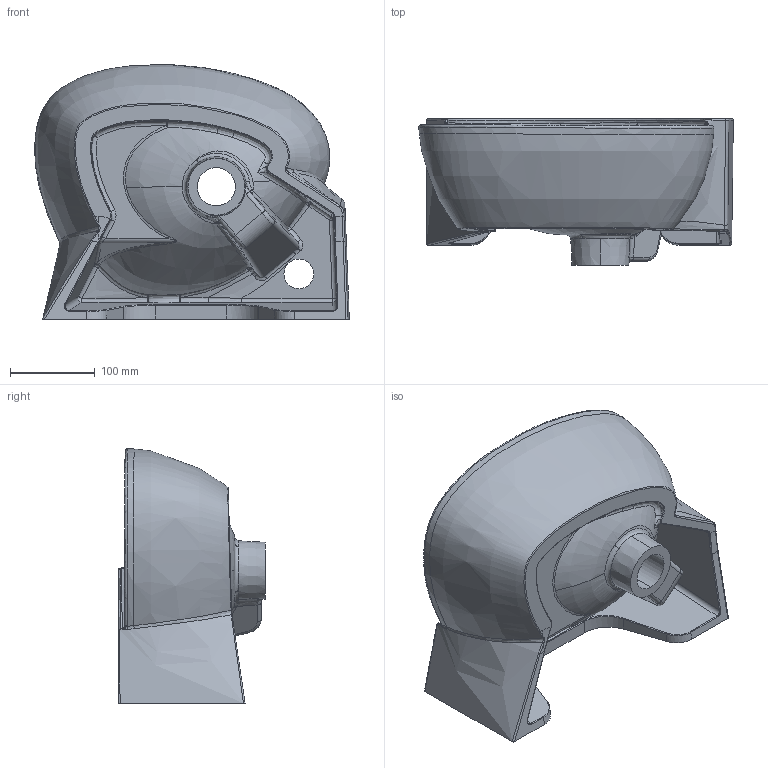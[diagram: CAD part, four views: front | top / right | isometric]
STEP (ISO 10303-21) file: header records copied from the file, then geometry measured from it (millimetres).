
FILE_DESCRIPTION (( 'STEP AP203' ), '1' );
FILE_NAME ('ck 035.STEP', '2018-08-06T11:02:09', ( '' ), ( '' ), 'SwSTEP 2.0', 'SolidWorks 2016', '' );
FILE_SCHEMA (( 'CONFIG_CONTROL_DESIGN' ));
Products named in the file (1): ck 035
Bounding box: 370.64 x 173 x 299.82 mm (x, y, z)
Volume: 4235212.4 mm3; surface area: 485963.1 mm2
Topology: 2 solids, 8 shells, 307 faces, 757 edges, 454 vertices
Faces by surface type: bspline 189, cylinder 51, plane 47, sphere 15, cone 4, torus 1
Entity records: 71206 total; most frequent: CARTESIAN_POINT 65466, ORIENTED_EDGE 1486, EDGE_CURVE 743, DIRECTION 734, VERTEX_POINT 452, B_SPLINE_CURVE_WITH_KNOTS 384, EDGE_LOOP 313, FACE_OUTER_BOUND 307
